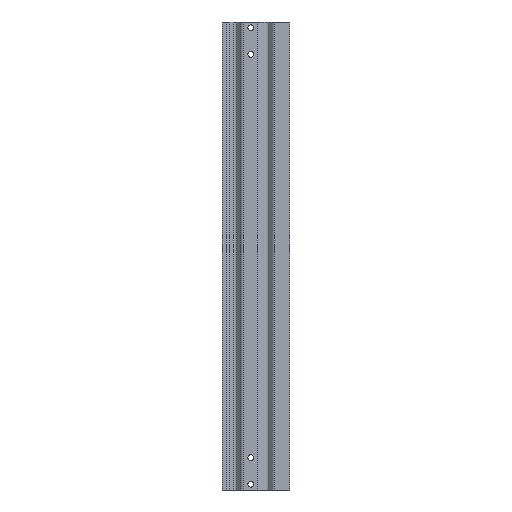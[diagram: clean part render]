
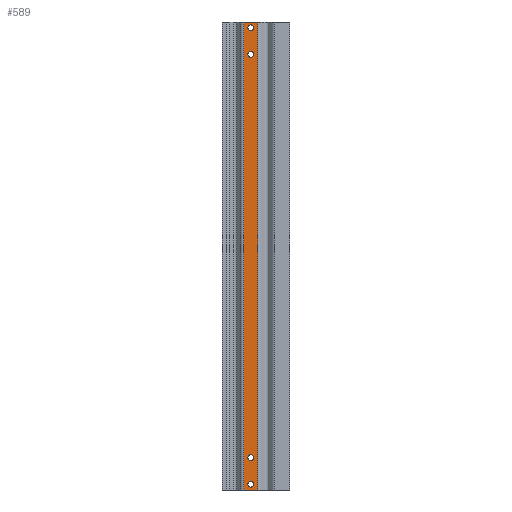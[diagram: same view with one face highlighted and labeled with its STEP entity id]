
A CAD part, left-side view. The second image highlights one B-rep face of the part: STEP entity #589.
In plain terms, the highlighted planar face has unit normal (-1, 0, 0).
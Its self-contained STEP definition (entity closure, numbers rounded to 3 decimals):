
#73=CARTESIAN_POINT('',(0.0,75.0,-843.0));
#74=VERTEX_POINT('',#73);
#75=CARTESIAN_POINT('',(0.0,75.0,-848.5));
#76=DIRECTION('',(1.0,0.0,0.0));
#77=DIRECTION('',(0.0,0.0,-1.0));
#78=AXIS2_PLACEMENT_3D('',#75,#76,#77);
#79=CIRCLE('',#78,5.5);
#80=EDGE_CURVE('',#74,#74,#79,.T.);
#101=CARTESIAN_POINT('',(0.0,75.0,-792.0));
#102=VERTEX_POINT('',#101);
#103=CARTESIAN_POINT('',(0.0,75.0,-797.5));
#104=DIRECTION('',(1.0,0.0,0.0));
#105=DIRECTION('',(0.0,0.0,-1.0));
#106=AXIS2_PLACEMENT_3D('',#103,#104,#105);
#107=CIRCLE('',#106,5.5);
#108=EDGE_CURVE('',#102,#102,#107,.T.);
#129=CARTESIAN_POINT('',(0.0,75.0,-20.));
#130=VERTEX_POINT('',#129);
#131=CARTESIAN_POINT('',(0.0,75.0,-25.5));
#132=DIRECTION('',(1.0,0.0,0.0));
#133=DIRECTION('',(0.0,0.0,-1.0));
#134=AXIS2_PLACEMENT_3D('',#131,#132,#133);
#135=CIRCLE('',#134,5.5);
#136=EDGE_CURVE('',#130,#130,#135,.T.);
#157=CARTESIAN_POINT('',(0.0,75.0,31.));
#158=VERTEX_POINT('',#157);
#159=CARTESIAN_POINT('',(0.0,75.0,25.5));
#160=DIRECTION('',(1.0,0.0,0.0));
#161=DIRECTION('',(0.0,0.0,-1.0));
#162=AXIS2_PLACEMENT_3D('',#159,#160,#161);
#163=CIRCLE('',#162,5.5);
#164=EDGE_CURVE('',#158,#158,#163,.T.);
#237=CARTESIAN_POINT('',(0.,61.178,-859.5));
#238=VERTEX_POINT('',#237);
#246=CARTESIAN_POINT('',(0.,88.822,-859.5));
#247=VERTEX_POINT('',#246);
#248=CARTESIAN_POINT('',(0.,88.822,-859.5));
#249=DIRECTION('',(0.0,-1.0,0.0));
#250=VECTOR('',#249,27.645);
#251=LINE('',#248,#250);
#252=EDGE_CURVE('',#247,#238,#251,.T.);
#534=CARTESIAN_POINT('',(0.,61.178,36.5));
#535=VERTEX_POINT('',#534);
#543=CARTESIAN_POINT('',(0.,61.178,36.5));
#544=DIRECTION('',(0.0,0.0,-1.0));
#545=VECTOR('',#544,896.);
#546=LINE('',#543,#545);
#547=EDGE_CURVE('',#535,#238,#546,.T.);
#554=CARTESIAN_POINT('',(0.,61.178,0.0));
#555=DIRECTION('',(-1.0,0.0,0.0));
#556=DIRECTION('',(0.0,0.0,1.0));
#557=AXIS2_PLACEMENT_3D('',#554,#555,#556);
#558=PLANE('',#557);
#559=CARTESIAN_POINT('',(0.,88.822,36.5));
#560=VERTEX_POINT('',#559);
#561=CARTESIAN_POINT('',(0.,61.178,36.5));
#562=DIRECTION('',(0.0,1.0,0.0));
#563=VECTOR('',#562,27.645);
#564=LINE('',#561,#563);
#565=EDGE_CURVE('',#535,#560,#564,.T.);
#566=ORIENTED_EDGE('',*,*,#565,.T.);
#567=CARTESIAN_POINT('',(0.,88.822,36.5));
#568=DIRECTION('',(0.0,0.0,-1.0));
#569=VECTOR('',#568,896.);
#570=LINE('',#567,#569);
#571=EDGE_CURVE('',#560,#247,#570,.T.);
#572=ORIENTED_EDGE('',*,*,#571,.T.);
#573=ORIENTED_EDGE('',*,*,#252,.T.);
#574=ORIENTED_EDGE('',*,*,#547,.F.);
#575=EDGE_LOOP('',(#566,#572,#573,#574));
#576=FACE_OUTER_BOUND('',#575,.T.);
#577=ORIENTED_EDGE('',*,*,#80,.T.);
#578=EDGE_LOOP('',(#577));
#579=FACE_BOUND('',#578,.T.);
#580=ORIENTED_EDGE('',*,*,#108,.T.);
#581=EDGE_LOOP('',(#580));
#582=FACE_BOUND('',#581,.T.);
#583=ORIENTED_EDGE('',*,*,#136,.T.);
#584=EDGE_LOOP('',(#583));
#585=FACE_BOUND('',#584,.T.);
#586=ORIENTED_EDGE('',*,*,#164,.T.);
#587=EDGE_LOOP('',(#586));
#588=FACE_BOUND('',#587,.T.);
#589=ADVANCED_FACE('',(#576,#579,#582,#585,#588),#558,.T.);
